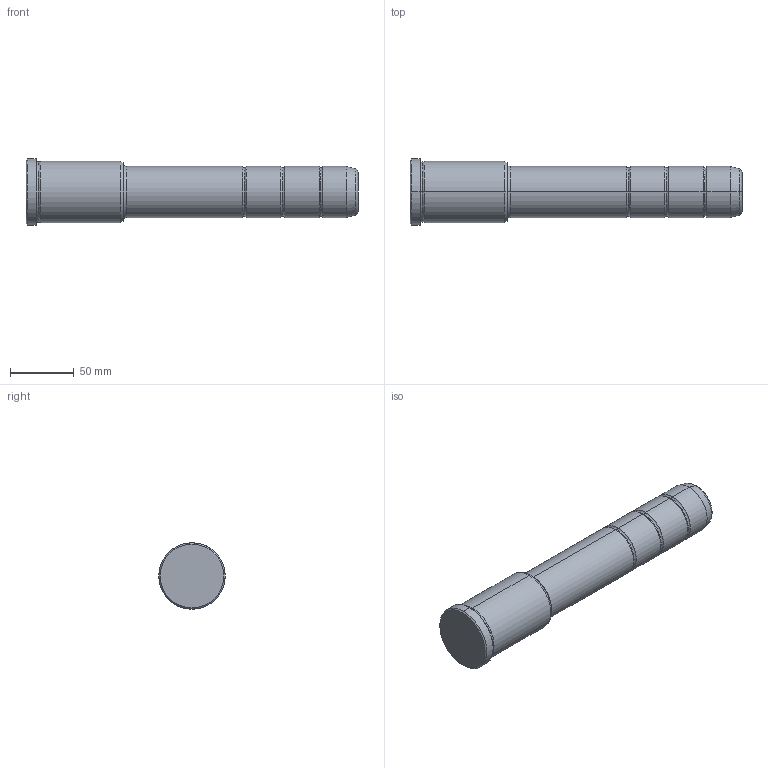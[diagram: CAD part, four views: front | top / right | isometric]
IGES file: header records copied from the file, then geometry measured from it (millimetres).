
Start section: START RECORD GO HERE.
Global section: file name: 351-40X76X260.igs; native system: DASSAULT SYSTEMES CATIA V5 R20 - www.3ds.com; preprocessor: CATIA Version 5 Release 20 ; author: Utente; organization: NB04-ASUS; date: 20211007.162603; units: millimetre
Bounding box: 260 x 52 x 52 mm (x, y, z)
Surface area: 38466.2 mm2 (no closed solid volume)
Topology: 0 solids, 0 shells, 42 faces, 236 edges, 236 vertices
Faces by surface type: revolution 38, plane 4
